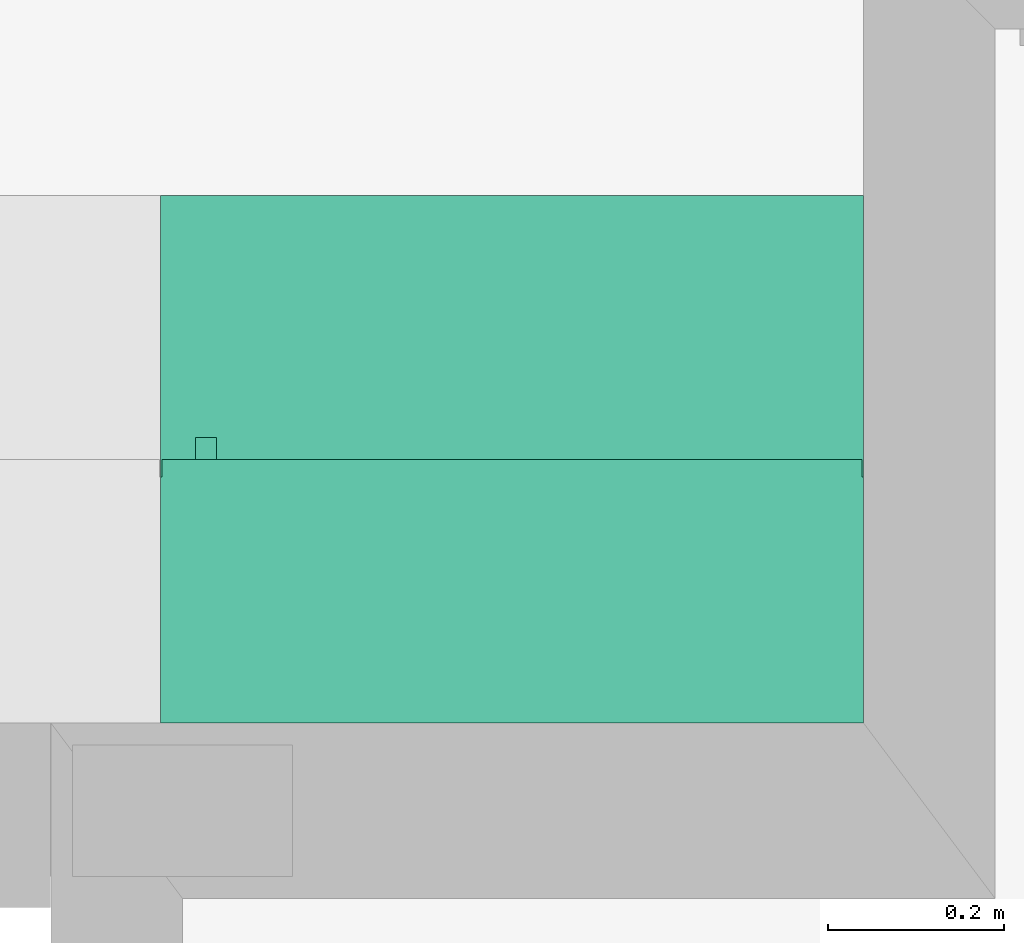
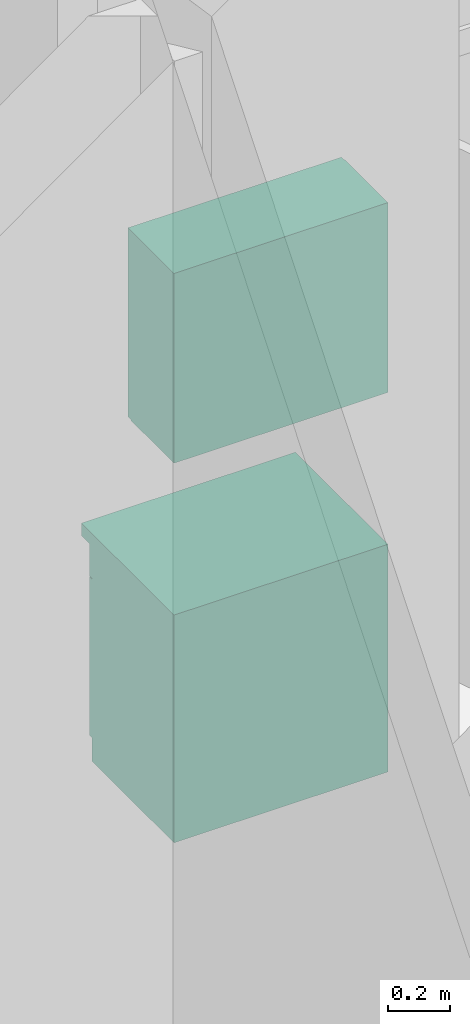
# One storey, part 23 of 26: 2 distribution elements.
"""IFC2X3 building model written with IfcOpenShell, lengths in millimetres."""

from ifc_helpers import new_model, entity, si_unit, converted_unit, money_unit, direction, frame, origin_with_axes, place, context, subcontext, project, spatial, faceted_brep, material, type_object, element, save


model = new_model("IFC2X3")

# Units and contexts
model_context = context("Model", 3, precision=1e-05, world=origin_with_axes(), true_north=direction((0.0, 1.0)))
body_context = subcontext(model_context, "Body", "Model", "MODEL_VIEW")
ifc_project = project(units=[si_unit("LENGTHUNIT", "METRE", prefix="MILLI"), si_unit("AREAUNIT", "SQUARE_METRE"), si_unit("VOLUMEUNIT", "CUBIC_METRE"), converted_unit("PLANEANGLEUNIT", "DEGREE", entity("IfcPlaneAngleMeasure", 0.0174532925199), si_unit("PLANEANGLEUNIT", "RADIAN"), dimensions=[0, 0, 0, 0, 0, 0, 0]), si_unit("SOLIDANGLEUNIT", "STERADIAN"), money_unit("USD"), converted_unit("TIMEUNIT", "Year", entity("IfcTimeMeasure", 31556926.0), si_unit("TIMEUNIT", "SECOND"), dimensions=[0, 0, 0, 0, 0, 0, 0]), si_unit("MASSUNIT", "GRAM"), si_unit("THERMODYNAMICTEMPERATUREUNIT", "DEGREE_CELSIUS"), si_unit("LUMINOUSINTENSITYUNIT", "LUMEN")], contexts=[model_context])

# Site, building, storey
site_placement = place(None, origin_with_axes())
site = spatial("IfcSite", under=ifc_project, at=site_placement, Name="Grove Residential", CompositionType="ELEMENT")
building_placement = place(site_placement, origin_with_axes())
building = spatial("IfcBuilding", under=site, at=building_placement, Name="Building", CompositionType="ELEMENT")
storey_placement = place(building_placement, origin_with_axes())
storey = spatial("IfcBuildingStorey", under=building, at=storey_placement, Name="Ground Floor", CompositionType="ELEMENT", Elevation=0.0)

# Distribution elements
ifc_material = material(Name="Background")
distribution_element_type_1 = type_object("IfcDistributionElementType", Name="Cabinet Base Single Door 21")
distribution_element_1_placement = place(storey_placement, frame((8000.0, 7660.00018153, 0.0), z_axis=(0.0, 0.0, 1.0), x_axis=(-1.0, 0.0, 0.0)))
element("IfcDistributionElement", 1, at=distribution_element_1_placement, inside=storey, type_object=distribution_element_type_1, material=ifc_material, Name="FU - 001", context=body_context, shape_type="Brep", body=[
    faceted_brep([(20.0, 70.0, 710.0), (780.0, 70.0, 710.0), (780.0, 70.0, 730.0), (20.0, 70.0, 730.0), (20.0, 580.0, 710.0), (780.0, 580.0, 710.0), (780.0, 580.0, 730.0), (20.0, 580.0, 730.0)], [[[0, 1, 2, 3]], [[0, 4, 5, 1]], [[1, 5, 6, 2]], [[3, 2, 6, 7]], [[4, 0, 3, 7]], [[5, 4, 7, 6]]]),
    faceted_brep([(0.0, 70.0, 0.0), (800.0, 70.0, 0.0), (800.0, 70.0, 90.0), (0.0, 70.0, 90.0), (0.0, 600.0, 0.0), (800.0, 600.0, 0.0), (800.0, 600.0, 90.0), (0.0, 600.0, 90.0)], [[[0, 1, 2, 3]], [[0, 4, 5, 1]], [[1, 5, 6, 2]], [[3, 2, 6, 7]], [[4, 0, 3, 7]], [[5, 4, 7, 6]]]),
    faceted_brep([(0.0, 70.0, 830.0), (20.0, 70.0, 830.0), (20.0, 70.0, 850.0), (0.0, 70.0, 850.0), (0.0, 600.0, 830.0), (20.0, 600.0, 830.0), (780.0, 600.0, 830.0), (800.0, 600.0, 830.0), (800.0, 70.0, 830.0), (780.0, 70.0, 830.0), (780.0, 70.0, 850.0), (800.0, 70.0, 850.0), (800.0, 600.0, 850.0), (780.0, 600.0, 850.0), (20.0, 600.0, 850.0), (0.0, 600.0, 850.0)], [[[0, 1, 2, 3]], [[0, 4, 5, 6, 7, 8, 9, 1]], [[1, 9, 10, 2]], [[3, 2, 10, 11, 12, 13, 14, 15]], [[4, 0, 3, 15]], [[5, 4, 15, 14]], [[6, 5, 14, 13]], [[7, 6, 13, 12]], [[8, 7, 12, 11]], [[9, 8, 11, 10]]]),
    faceted_brep([(0.0, 70.0, 90.0), (20.0, 70.0, 90.0), (20.0, 70.0, 110.0), (0.0, 70.0, 110.0), (0.0, 600.0, 90.0), (20.0, 600.0, 90.0), (780.0, 600.0, 90.0), (800.0, 600.0, 90.0), (800.0, 70.0, 90.0), (780.0, 70.0, 90.0), (780.0, 70.0, 110.0), (800.0, 70.0, 110.0), (800.0, 600.0, 110.0), (780.0, 600.0, 110.0), (20.0, 600.0, 110.0), (0.0, 600.0, 110.0)], [[[0, 1, 2, 3]], [[0, 4, 5, 6, 7, 8, 9, 1]], [[1, 9, 10, 2]], [[3, 2, 10, 11, 12, 13, 14, 15]], [[4, 0, 3, 15]], [[5, 4, 15, 14]], [[6, 5, 14, 13]], [[7, 6, 13, 12]], [[8, 7, 12, 11]], [[9, 8, 11, 10]]]),
    faceted_brep([(0.0, 70.0, 110.0), (20.0, 70.0, 110.0), (20.0, 70.0, 830.0), (0.0, 70.0, 830.0), (0.0, 600.0, 110.0), (800.0, 600.0, 110.0), (800.0, 70.0, 110.0), (780.0, 70.0, 110.0), (780.0, 580.0, 110.0), (20.0, 580.0, 110.0), (20.0, 580.0, 830.0), (780.0, 580.0, 830.0), (780.0, 70.0, 830.0), (800.0, 70.0, 830.0), (800.0, 600.0, 830.0), (0.0, 600.0, 830.0)], [[[0, 1, 2, 3]], [[0, 4, 5, 6, 7, 8, 9, 1]], [[1, 9, 10, 2]], [[3, 2, 10, 11, 12, 13, 14, 15]], [[4, 0, 3, 15]], [[5, 4, 15, 14]], [[6, 5, 14, 13]], [[7, 6, 13, 12]], [[8, 7, 12, 11]], [[9, 8, 11, 10]]]),
    faceted_brep([(780.0, 70.0, 385.0), (780.0, 580.0, 385.0), (780.0, 580.0, 405.0), (780.0, 70.0, 405.0), (20.0, 70.0, 385.0), (20.0, 580.0, 385.0), (20.0, 580.0, 405.0), (20.0, 70.0, 405.0)], [[[0, 1, 2, 3]], [[0, 4, 5, 1]], [[1, 5, 6, 2]], [[3, 2, 6, 7]], [[4, 0, 3, 7]], [[5, 4, 7, 6]]]),
    faceted_brep([(0.0, 0.0, 850.0), (800.0, 0.0, 850.0), (800.0, 0.0, 900.0), (0.0, 0.0, 900.0), (0.0, 600.0, 850.0), (800.0, 600.0, 850.0), (800.0, 600.0, 900.0), (0.0, 600.0, 900.0)], [[[0, 1, 2, 3]], [[0, 4, 5, 1]], [[1, 5, 6, 2]], [[3, 2, 6, 7]], [[4, 0, 3, 7]], [[5, 4, 7, 6]]]),
    faceted_brep([(1.5, 70.0, 721.5), (798.5, 70.0, 721.5), (798.5, 50.0, 721.5), (1.5, 50.0, 721.5), (1.5, 70.0, 848.5), (798.5, 70.0, 848.5), (798.5, 50.0, 848.5), (1.5, 50.0, 848.5)], [[[0, 1, 2, 3]], [[0, 4, 5, 1]], [[1, 5, 6, 2]], [[3, 2, 6, 7]], [[4, 0, 3, 7]], [[5, 4, 7, 6]]]),
    faceted_brep([(395.407798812, 50.0, 773.91344561), (391.514718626, 50.0, 776.514718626), (388.91344561, 50.0, 780.407798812), (388.0, 50.0, 785.0), (388.91344561, 50.0, 789.592201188), (391.514718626, 50.0, 793.485281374), (395.407798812, 50.0, 796.08655439), (400.0, 50.0, 797.0), (404.592201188, 50.0, 796.08655439), (408.485281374, 50.0, 793.485281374), (411.08655439, 50.0, 789.592201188), (412.0, 50.0, 785.0), (411.08655439, 50.0, 780.407798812), (408.485281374, 50.0, 776.514718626), (404.592201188, 50.0, 773.91344561), (400.0, 50.0, 773.0), (395.407798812, 25.0, 773.91344561), (391.514718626, 25.0, 776.514718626), (388.91344561, 25.0, 780.407798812), (388.0, 25.0, 785.0), (388.91344561, 25.0, 789.592201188), (391.514718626, 25.0, 793.485281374), (395.407798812, 25.0, 796.08655439), (400.0, 25.0, 797.0), (404.592201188, 25.0, 796.08655439), (408.485281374, 25.0, 793.485281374), (411.08655439, 25.0, 789.592201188), (412.0, 25.0, 785.0), (411.08655439, 25.0, 780.407798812), (408.485281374, 25.0, 776.514718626), (404.592201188, 25.0, 773.91344561), (400.0, 25.0, 773.0)], [[[0, 1, 2, 3, 4, 5, 6, 7, 8, 9, 10, 11, 12, 13, 14, 15]], [[1, 0, 16, 17]], [[2, 1, 17, 18]], [[3, 2, 18, 19]], [[4, 3, 19, 20]], [[5, 4, 20, 21]], [[6, 5, 21, 22]], [[7, 6, 22, 23]], [[8, 7, 23, 24]], [[9, 8, 24, 25]], [[10, 9, 25, 26]], [[11, 10, 26, 27]], [[12, 11, 27, 28]], [[13, 12, 28, 29]], [[14, 13, 29, 30]], [[15, 14, 30, 31]], [[0, 15, 31, 16]], [[16, 31, 30, 29, 28, 27, 26, 25, 24, 23, 22, 21, 20, 19, 18, 17]]]),
    faceted_brep([(1.5, 70.0, 91.5), (798.5, 70.0, 91.5), (798.5, 50.0, 91.5), (1.5, 50.0, 91.5), (1.5, 70.0, 718.5), (798.5, 70.0, 718.5), (798.5, 50.0, 718.5), (1.5, 50.0, 718.5)], [[[0, 1, 2, 3]], [[0, 4, 5, 1]], [[1, 5, 6, 2]], [[3, 2, 6, 7]], [[4, 0, 3, 7]], [[5, 4, 7, 6]]]),
    faceted_brep([(759.58655439, 50.0, 636.907798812), (756.985281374, 50.0, 633.014718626), (753.092201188, 50.0, 630.41344561), (748.5, 50.0, 629.5), (743.907798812, 50.0, 630.41344561), (740.014718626, 50.0, 633.014718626), (737.41344561, 50.0, 636.907798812), (736.5, 50.0, 641.5), (737.41344561, 50.0, 646.092201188), (740.014718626, 50.0, 649.985281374), (743.907798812, 50.0, 652.58655439), (748.5, 50.0, 653.5), (753.092201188, 50.0, 652.58655439), (756.985281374, 50.0, 649.985281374), (759.58655439, 50.0, 646.092201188), (760.5, 50.0, 641.5), (759.58655439, 25.0, 636.907798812), (756.985281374, 25.0, 633.014718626), (753.092201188, 25.0, 630.41344561), (748.5, 25.0, 629.5), (743.907798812, 25.0, 630.41344561), (740.014718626, 25.0, 633.014718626), (737.41344561, 25.0, 636.907798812), (736.5, 25.0, 641.5), (737.41344561, 25.0, 646.092201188), (740.014718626, 25.0, 649.985281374), (743.907798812, 25.0, 652.58655439), (748.5, 25.0, 653.5), (753.092201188, 25.0, 652.58655439), (756.985281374, 25.0, 649.985281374), (759.58655439, 25.0, 646.092201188), (760.5, 25.0, 641.5)], [[[0, 1, 2, 3, 4, 5, 6, 7, 8, 9, 10, 11, 12, 13, 14, 15]], [[1, 0, 16, 17]], [[2, 1, 17, 18]], [[3, 2, 18, 19]], [[4, 3, 19, 20]], [[5, 4, 20, 21]], [[6, 5, 21, 22]], [[7, 6, 22, 23]], [[8, 7, 23, 24]], [[9, 8, 24, 25]], [[10, 9, 25, 26]], [[11, 10, 26, 27]], [[12, 11, 27, 28]], [[13, 12, 28, 29]], [[14, 13, 29, 30]], [[15, 14, 30, 31]], [[0, 15, 31, 16]], [[16, 31, 30, 29, 28, 27, 26, 25, 24, 23, 22, 21, 20, 19, 18, 17]]]),
])
distribution_element_type_2 = type_object("IfcDistributionElementType", Name="Cabinet Wall Single Door 21")
distribution_element_2_placement = place(storey_placement, frame((8000.0, 7360.00018153, 0.0), z_axis=(0.0, 0.0, 1.0), x_axis=(-1.0, 0.0, 0.0)))
element("IfcDistributionElement", 2, at=distribution_element_2_placement, inside=storey, type_object=distribution_element_type_2, material=ifc_material, Name="FU - 001", context=body_context, shape_type="Brep", body=[
    faceted_brep([(0.0, 20.0, 2230.0), (20.0, 20.0, 2230.0), (20.0, 20.0, 2250.0), (0.0, 20.0, 2250.0), (0.0, 300.0, 2230.0), (20.0, 300.0, 2230.0), (780.0, 300.0, 2230.0), (800.0, 300.0, 2230.0), (800.0, 20.0, 2230.0), (780.0, 20.0, 2230.0), (780.0, 20.0, 2250.0), (800.0, 20.0, 2250.0), (800.0, 300.0, 2250.0), (780.0, 300.0, 2250.0), (20.0, 300.0, 2250.0), (0.0, 300.0, 2250.0)], [[[0, 1, 2, 3]], [[0, 4, 5, 6, 7, 8, 9, 1]], [[1, 9, 10, 2]], [[3, 2, 10, 11, 12, 13, 14, 15]], [[4, 0, 3, 15]], [[5, 4, 15, 14]], [[6, 5, 14, 13]], [[7, 6, 13, 12]], [[8, 7, 12, 11]], [[9, 8, 11, 10]]]),
    faceted_brep([(0.0, 20.0, 1500.0), (20.0, 20.0, 1500.0), (20.0, 20.0, 1520.0), (0.0, 20.0, 1520.0), (0.0, 300.0, 1500.0), (20.0, 300.0, 1500.0), (780.0, 300.0, 1500.0), (800.0, 300.0, 1500.0), (800.0, 20.0, 1500.0), (780.0, 20.0, 1500.0), (780.0, 20.0, 1520.0), (800.0, 20.0, 1520.0), (800.0, 300.0, 1520.0), (780.0, 300.0, 1520.0), (20.0, 300.0, 1520.0), (0.0, 300.0, 1520.0)], [[[0, 1, 2, 3]], [[0, 4, 5, 6, 7, 8, 9, 1]], [[1, 9, 10, 2]], [[3, 2, 10, 11, 12, 13, 14, 15]], [[4, 0, 3, 15]], [[5, 4, 15, 14]], [[6, 5, 14, 13]], [[7, 6, 13, 12]], [[8, 7, 12, 11]], [[9, 8, 11, 10]]]),
    faceted_brep([(0.0, 20.0, 1520.0), (20.0, 20.0, 1520.0), (20.0, 20.0, 2230.0), (0.0, 20.0, 2230.0), (0.0, 300.0, 1520.0), (800.0, 300.0, 1520.0), (800.0, 20.0, 1520.0), (780.0, 20.0, 1520.0), (780.0, 280.0, 1520.0), (20.0, 280.0, 1520.0), (20.0, 280.0, 2230.0), (780.0, 280.0, 2230.0), (780.0, 20.0, 2230.0), (800.0, 20.0, 2230.0), (800.0, 300.0, 2230.0), (0.0, 300.0, 2230.0)], [[[0, 1, 2, 3]], [[0, 4, 5, 6, 7, 8, 9, 1]], [[1, 9, 10, 2]], [[3, 2, 10, 11, 12, 13, 14, 15]], [[4, 0, 3, 15]], [[5, 4, 15, 14]], [[6, 5, 14, 13]], [[7, 6, 13, 12]], [[8, 7, 12, 11]], [[9, 8, 11, 10]]]),
    faceted_brep([(780.0, 20.0, 1730.0), (780.0, 280.0, 1730.0), (780.0, 280.0, 1750.0), (780.0, 20.0, 1750.0), (20.0, 20.0, 1730.0), (20.0, 280.0, 1730.0), (20.0, 280.0, 1750.0), (20.0, 20.0, 1750.0)], [[[0, 1, 2, 3]], [[0, 4, 5, 1]], [[1, 5, 6, 2]], [[3, 2, 6, 7]], [[4, 0, 3, 7]], [[5, 4, 7, 6]]]),
    faceted_brep([(780.0, 20.0, 1980.0), (780.0, 280.0, 1980.0), (780.0, 280.0, 2000.0), (780.0, 20.0, 2000.0), (20.0, 20.0, 1980.0), (20.0, 280.0, 1980.0), (20.0, 280.0, 2000.0), (20.0, 20.0, 2000.0)], [[[0, 1, 2, 3]], [[0, 4, 5, 1]], [[1, 5, 6, 2]], [[3, 2, 6, 7]], [[4, 0, 3, 7]], [[5, 4, 7, 6]]]),
    faceted_brep([(1.5, 20.0, 1501.5), (798.5, 20.0, 1501.5), (798.5, 0.0, 1501.5), (1.5, 0.0, 1501.5), (1.5, 20.0, 2248.5), (798.5, 20.0, 2248.5), (798.5, 0.0, 2248.5), (1.5, 0.0, 2248.5)], [[[0, 1, 2, 3]], [[0, 4, 5, 1]], [[1, 5, 6, 2]], [[3, 2, 6, 7]], [[4, 0, 3, 7]], [[5, 4, 7, 6]]]),
    faceted_brep([(760.091109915, 0.0, 1548.39417146), (758.892304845, 0.0, 1545.5), (756.985281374, 0.0, 1543.01471863), (754.5, 0.0, 1541.10769515), (751.605828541, 0.0, 1539.90889008), (748.5, 0.0, 1539.5), (745.394171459, 0.0, 1539.90889008), (742.5, 0.0, 1541.10769515), (740.014718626, 0.0, 1543.01471863), (738.107695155, 0.0, 1545.5), (736.908890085, 0.0, 1548.39417146), (736.5, 0.0, 1551.5), (736.908890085, 0.0, 1554.60582854), (738.107695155, 0.0, 1557.5), (740.014718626, 0.0, 1559.98528137), (742.5, 0.0, 1561.89230485), (745.394171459, 0.0, 1563.09110992), (748.5, 0.0, 1563.5), (751.605828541, 0.0, 1563.09110992), (754.5, 0.0, 1561.89230485), (756.985281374, 0.0, 1559.98528137), (758.892304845, 0.0, 1557.5), (760.091109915, 0.0, 1554.60582854), (760.5, 0.0, 1551.5), (760.091109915, -25.0, 1548.39417146), (758.892304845, -25.0, 1545.5), (756.985281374, -25.0, 1543.01471863), (754.5, -25.0, 1541.10769515), (751.605828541, -25.0, 1539.90889008), (748.5, -25.0, 1539.5), (745.394171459, -25.0, 1539.90889008), (742.5, -25.0, 1541.10769515), (740.014718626, -25.0, 1543.01471863), (738.107695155, -25.0, 1545.5), (736.908890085, -25.0, 1548.39417146), (736.5, -25.0, 1551.5), (736.908890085, -25.0, 1554.60582854), (738.107695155, -25.0, 1557.5), (740.014718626, -25.0, 1559.98528137), (742.5, -25.0, 1561.89230485), (745.394171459, -25.0, 1563.09110992), (748.5, -25.0, 1563.5), (751.605828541, -25.0, 1563.09110992), (754.5, -25.0, 1561.89230485), (756.985281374, -25.0, 1559.98528137), (758.892304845, -25.0, 1557.5), (760.091109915, -25.0, 1554.60582854), (760.5, -25.0, 1551.5)], [[[0, 1, 2, 3, 4, 5, 6, 7, 8, 9, 10, 11, 12, 13, 14, 15, 16, 17, 18, 19, 20, 21, 22, 23]], [[1, 0, 24, 25]], [[2, 1, 25, 26]], [[3, 2, 26, 27]], [[4, 3, 27, 28]], [[5, 4, 28, 29]], [[6, 5, 29, 30]], [[7, 6, 30, 31]], [[8, 7, 31, 32]], [[9, 8, 32, 33]], [[10, 9, 33, 34]], [[11, 10, 34, 35]], [[12, 11, 35, 36]], [[13, 12, 36, 37]], [[14, 13, 37, 38]], [[15, 14, 38, 39]], [[16, 15, 39, 40]], [[17, 16, 40, 41]], [[18, 17, 41, 42]], [[19, 18, 42, 43]], [[20, 19, 43, 44]], [[21, 20, 44, 45]], [[22, 21, 45, 46]], [[23, 22, 46, 47]], [[0, 23, 47, 24]], [[24, 47, 46, 45, 44, 43, 42, 41, 40, 39, 38, 37, 36, 35, 34, 33, 32, 31, 30, 29, 28, 27, 26, 25]]]),
])

save(model, "model.ifc")
